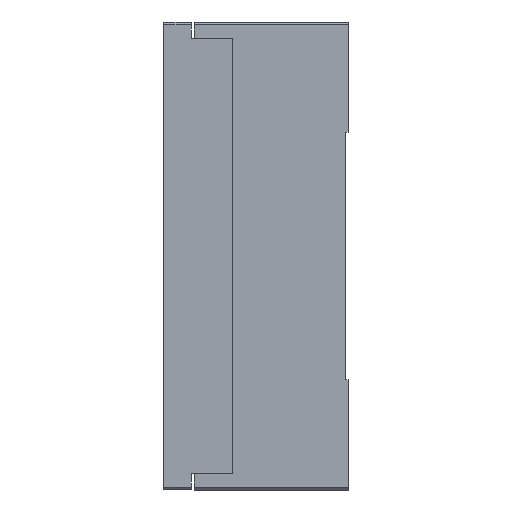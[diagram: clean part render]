
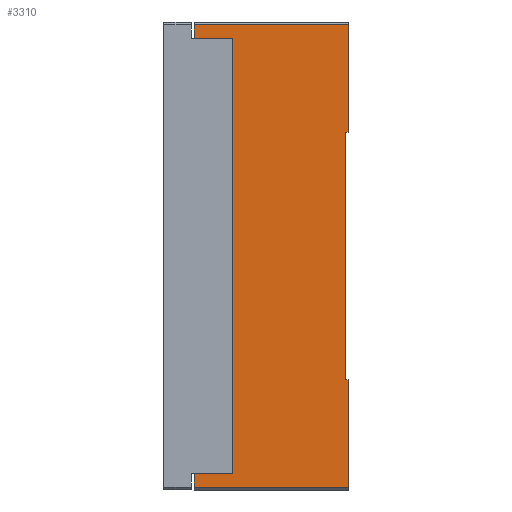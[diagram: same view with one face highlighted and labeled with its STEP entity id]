
A CAD part, left-side view. The second image highlights one B-rep face of the part: STEP entity #3310.
In plain terms, the highlighted planar face has unit normal (-1, 0, 0).
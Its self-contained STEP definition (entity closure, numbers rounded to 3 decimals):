
#468 = VECTOR ( 'NONE', #24713, 1000. ) ;
#611 = EDGE_CURVE ( 'NONE', #10960, #8929, #31629, .T. ) ;
#1600 = ORIENTED_EDGE ( 'NONE', *, *, #6227, .T. ) ;
#3310 = ADVANCED_FACE ( 'NONE', ( #18357 ), #21076, .T. ) ;
#3450 = EDGE_CURVE ( 'NONE', #23495, #8929, #14792, .T. ) ;
#3595 = CARTESIAN_POINT ( 'NONE',  ( -105., 0., 45. ) ) ;
#5262 = LINE ( 'NONE', #5318, #21889 ) ;
#5270 = DIRECTION ( 'NONE',  ( 0., 1., 0. ) ) ;
#5318 = CARTESIAN_POINT ( 'NONE',  ( -105., 56., 84. ) ) ;
#5858 = CARTESIAN_POINT ( 'NONE',  ( -105., 0., -45. ) ) ;
#6227 = EDGE_CURVE ( 'NONE', #32945, #13254, #35747, .T. ) ;
#6331 = CARTESIAN_POINT ( 'NONE',  ( -105., 56., 85. ) ) ;
#7059 = ORIENTED_EDGE ( 'NONE', *, *, #38998, .T. ) ;
#7559 = CARTESIAN_POINT ( 'NONE',  ( -105., 0., 45. ) ) ;
#7754 = VECTOR ( 'NONE', #29639, 1000. ) ;
#8134 = CARTESIAN_POINT ( 'NONE',  ( -105., 42., -79. ) ) ;
#8183 = EDGE_CURVE ( 'NONE', #35668, #37229, #32376, .T. ) ;
#8249 = ORIENTED_EDGE ( 'NONE', *, *, #3450, .F. ) ;
#8929 = VERTEX_POINT ( 'NONE', #19908 ) ;
#9261 = DIRECTION ( 'NONE',  ( 0., -1., 0. ) ) ;
#9745 = DIRECTION ( 'NONE',  ( 0., 0., 1. ) ) ;
#9755 = ORIENTED_EDGE ( 'NONE', *, *, #33210, .T. ) ;
#10104 = ORIENTED_EDGE ( 'NONE', *, *, #611, .T. ) ;
#10277 = VERTEX_POINT ( 'NONE', #31532 ) ;
#10892 = LINE ( 'NONE', #37683, #35077 ) ;
#10960 = VERTEX_POINT ( 'NONE', #12958 ) ;
#11140 = LINE ( 'NONE', #19862, #16830 ) ;
#12958 = CARTESIAN_POINT ( 'NONE',  ( -105., 56., -84. ) ) ;
#13058 = VECTOR ( 'NONE', #9745, 1000. ) ;
#13254 = VERTEX_POINT ( 'NONE', #41828 ) ;
#13702 = EDGE_LOOP ( 'NONE', ( #9755, #1600, #20196, #10104, #8249, #13915, #29405, #40496, #30862, #39260, #28177, #7059 ) ) ;
#13784 = VECTOR ( 'NONE', #31215, 1000. ) ;
#13915 = ORIENTED_EDGE ( 'NONE', *, *, #38621, .F. ) ;
#14525 = DIRECTION ( 'NONE',  ( 0., 0., 1. ) ) ;
#14721 = DIRECTION ( 'NONE',  ( 0., 0., -1. ) ) ;
#14792 = LINE ( 'NONE', #31942, #13784 ) ;
#14966 = CARTESIAN_POINT ( 'NONE',  ( -105., 56., 85. ) ) ;
#15094 = AXIS2_PLACEMENT_3D ( 'NONE', #23725, #23862, #24004 ) ;
#15269 = EDGE_CURVE ( 'NONE', #10277, #37229, #5262, .T. ) ;
#15675 = VECTOR ( 'NONE', #9261, 1000. ) ;
#16447 = CARTESIAN_POINT ( 'NONE',  ( -105., 0., 85. ) ) ;
#16830 = VECTOR ( 'NONE', #23199, 1000. ) ;
#18038 = VERTEX_POINT ( 'NONE', #30524 ) ;
#18357 = FACE_OUTER_BOUND ( 'NONE', #13702, .T. ) ;
#18478 = VERTEX_POINT ( 'NONE', #20923 ) ;
#19862 = CARTESIAN_POINT ( 'NONE',  ( -105., 42., 70. ) ) ;
#19908 = CARTESIAN_POINT ( 'NONE',  ( -105., 0., -84. ) ) ;
#20196 = ORIENTED_EDGE ( 'NONE', *, *, #36503, .F. ) ;
#20687 = EDGE_CURVE ( 'NONE', #38171, #30900, #41100, .T. ) ;
#20923 = CARTESIAN_POINT ( 'NONE',  ( -105., 42., 79. ) ) ;
#21076 = PLANE ( 'NONE',  #15094 ) ;
#21347 = CARTESIAN_POINT ( 'NONE',  ( -105., 56., 79. ) ) ;
#21760 = LINE ( 'NONE', #16447, #38235 ) ;
#21889 = VECTOR ( 'NONE', #5270, 1000. ) ;
#22636 = VECTOR ( 'NONE', #30174, 1000. ) ;
#23199 = DIRECTION ( 'NONE',  ( 0., 0., -1. ) ) ;
#23495 = VERTEX_POINT ( 'NONE', #39932 ) ;
#23725 = CARTESIAN_POINT ( 'NONE',  ( -105., 56., 85. ) ) ;
#23862 = DIRECTION ( 'NONE',  ( -1., 0., 0. ) ) ;
#24004 = DIRECTION ( 'NONE',  ( 0., 0., 1. ) ) ;
#24713 = DIRECTION ( 'NONE',  ( 0., -1., 0. ) ) ;
#25934 = LINE ( 'NONE', #21347, #468 ) ;
#26735 = CARTESIAN_POINT ( 'NONE',  ( -105., 56., 79. ) ) ;
#28177 = ORIENTED_EDGE ( 'NONE', *, *, #8183, .F. ) ;
#28565 = CARTESIAN_POINT ( 'NONE',  ( -105., 56., 84. ) ) ;
#29004 = CARTESIAN_POINT ( 'NONE',  ( -105., 1., 45. ) ) ;
#29405 = ORIENTED_EDGE ( 'NONE', *, *, #41586, .F. ) ;
#29524 = CARTESIAN_POINT ( 'NONE',  ( -105., 56., -79. ) ) ;
#29639 = DIRECTION ( 'NONE',  ( 0., -1., 0. ) ) ;
#29795 = CARTESIAN_POINT ( 'NONE',  ( -105., 0., -84. ) ) ;
#30174 = DIRECTION ( 'NONE',  ( 0., 1., 0. ) ) ;
#30524 = CARTESIAN_POINT ( 'NONE',  ( -105., 1., -45. ) ) ;
#30809 = DIRECTION ( 'NONE',  ( 0., 1., 0. ) ) ;
#30862 = ORIENTED_EDGE ( 'NONE', *, *, #36509, .F. ) ;
#30900 = VERTEX_POINT ( 'NONE', #29004 ) ;
#31215 = DIRECTION ( 'NONE',  ( 0., 0., -1. ) ) ;
#31352 = VECTOR ( 'NONE', #14525, 1000. ) ;
#31532 = CARTESIAN_POINT ( 'NONE',  ( -105., 0., 84. ) ) ;
#31629 = LINE ( 'NONE', #29795, #7754 ) ;
#31942 = CARTESIAN_POINT ( 'NONE',  ( -105., 0., 85. ) ) ;
#32376 = LINE ( 'NONE', #14966, #31352 ) ;
#32945 = VERTEX_POINT ( 'NONE', #8134 ) ;
#33210 = EDGE_CURVE ( 'NONE', #18478, #32945, #11140, .T. ) ;
#34162 = LINE ( 'NONE', #5858, #15675 ) ;
#35077 = VECTOR ( 'NONE', #14721, 1000. ) ;
#35241 = VECTOR ( 'NONE', #30809, 1000. ) ;
#35668 = VERTEX_POINT ( 'NONE', #26735 ) ;
#35747 = LINE ( 'NONE', #29524, #35241 ) ;
#36503 = EDGE_CURVE ( 'NONE', #10960, #13254, #39252, .T. ) ;
#36509 = EDGE_CURVE ( 'NONE', #10277, #38171, #21760, .T. ) ;
#37229 = VERTEX_POINT ( 'NONE', #28565 ) ;
#37683 = CARTESIAN_POINT ( 'NONE',  ( -105., 1., -45. ) ) ;
#38171 = VERTEX_POINT ( 'NONE', #7559 ) ;
#38235 = VECTOR ( 'NONE', #42635, 1000. ) ;
#38621 = EDGE_CURVE ( 'NONE', #18038, #23495, #34162, .T. ) ;
#38998 = EDGE_CURVE ( 'NONE', #35668, #18478, #25934, .T. ) ;
#39252 = LINE ( 'NONE', #6331, #13058 ) ;
#39260 = ORIENTED_EDGE ( 'NONE', *, *, #15269, .T. ) ;
#39932 = CARTESIAN_POINT ( 'NONE',  ( -105., 0., -45. ) ) ;
#40496 = ORIENTED_EDGE ( 'NONE', *, *, #20687, .F. ) ;
#41100 = LINE ( 'NONE', #3595, #22636 ) ;
#41586 = EDGE_CURVE ( 'NONE', #30900, #18038, #10892, .T. ) ;
#41828 = CARTESIAN_POINT ( 'NONE',  ( -105., 56., -79. ) ) ;
#42635 = DIRECTION ( 'NONE',  ( 0., 0., -1. ) ) ;
